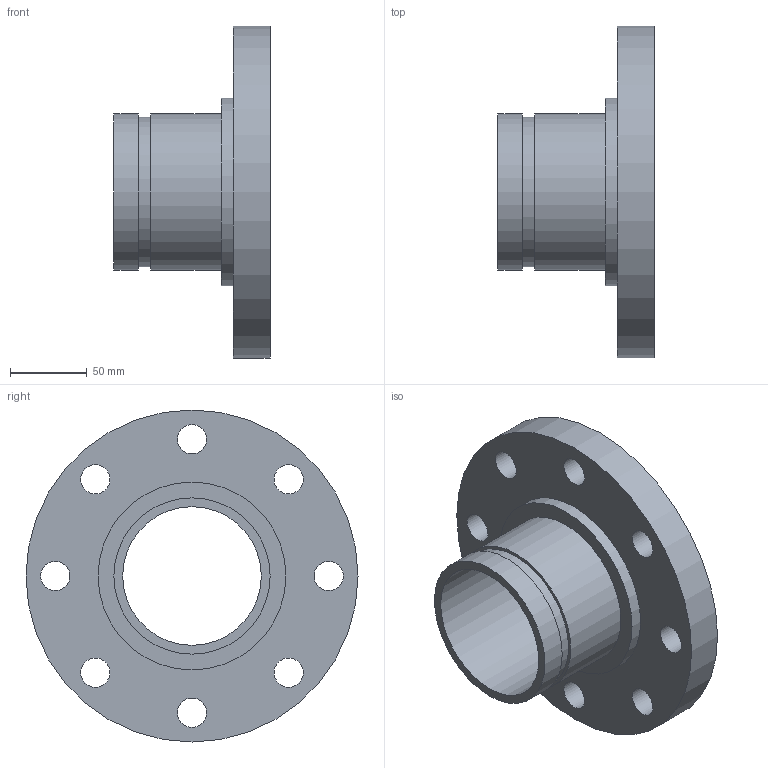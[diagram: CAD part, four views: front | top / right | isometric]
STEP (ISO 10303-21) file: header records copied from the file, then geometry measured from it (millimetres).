
FILE_DESCRIPTION(/* description */ ('VIC FLANGE ADAPTER No 45F','CAx-IF Rec.Pracs.---Representation and Presentation of Product Manufacturing Information (PMI)---4.0---2014-10-13'),/* implementation_level */ '2;1');
FILE_NAME(/* name */ 'C:\Users\kkamble\AppData\Roaming\Autodesk\ApplicationPlugins\Back Up\Victaulic_IPS_Flanged Adapter Nipple_CL 150 FF_No 45F (OGSxFLG)\Victaulic_IPS_Flanged Adapter Nipple_CL 150 FF_No 45F (OGSxFLG)_3.5 (90).stp',/* time_stamp */ '2020-07-26T22:22:59+06:00',/* author */ ('CONSTRUCTION PIPING SERVICES'),/* organization */ ('Victaulic'),/* preprocessor_version */ 'ST-DEVELOPER v17.2',/* originating_system */ 'Autodesk Inventor 2019',/* authorisation */ '');
FILE_SCHEMA (('AP242_MANAGED_MODEL_BASED_3D_ENGINEERING_MIM_LF { 1 0 10303 442 1 1 4 }'));
Length unit declared in the file: inch
Products named in the file (1): 045F-03.5
Bounding box: 101.6 x 215.9 x 215.9 mm (x, y, z)
Volume: 824951.3 mm3; surface area: 138822.1 mm2
Topology: 1 solids, 1 shells, 20 faces, 54 edges, 40 vertices
Faces by surface type: cylinder 14, plane 6
Full cylindrical faces by diameter (mm): 19.05 x8, 90.119 x1, 97.384 x1, 101.6 x2, 122.174 x1, 215.9 x1
Entity records: 782 total; most frequent: DIRECTION 136, CARTESIAN_POINT 115, ORIENTED_EDGE 108, AXIS2_PLACEMENT_3D 61, EDGE_CURVE 54, EDGE_LOOP 42, CIRCLE 40, VERTEX_POINT 40
